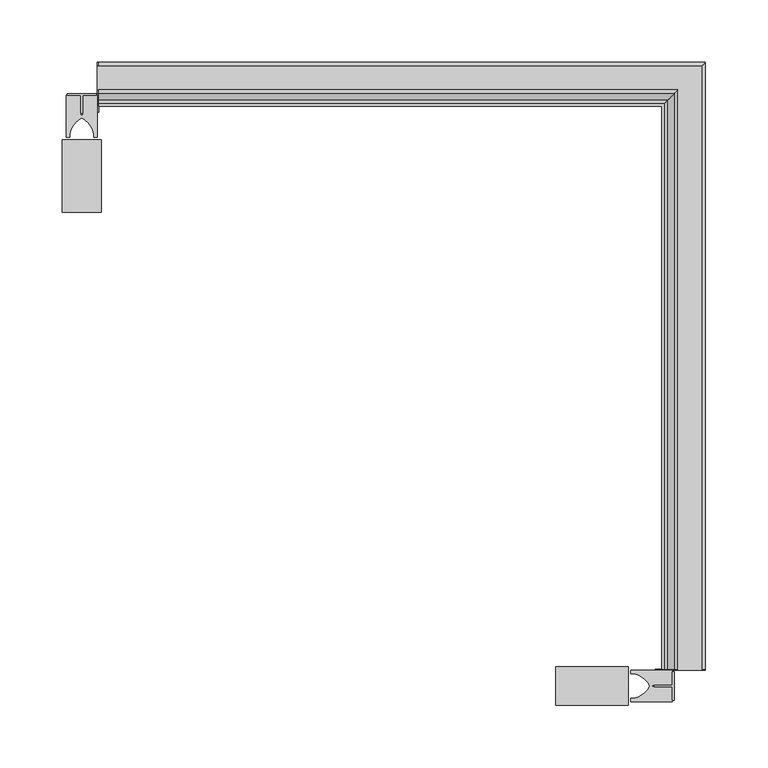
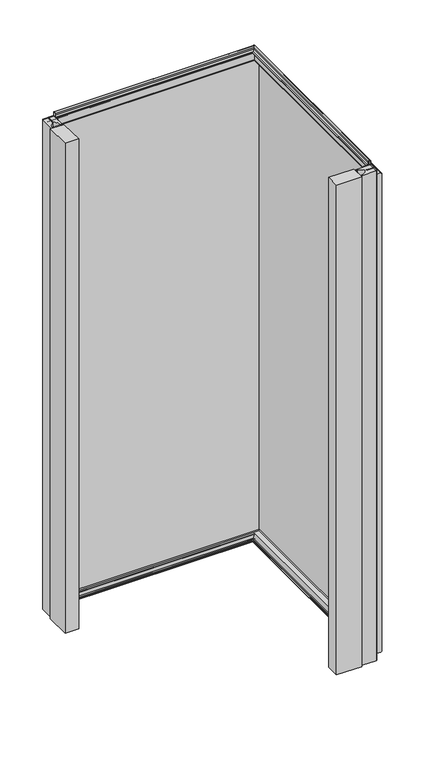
"""IFC4 building model written with IfcOpenShell, lengths in millimetres: plate geometry, Угловой модуль Fronttop : Угловой модуль Fronttop 120/1190."""

from ifc_helpers import new_model, si_unit, point, frame, frame_2d, origin, origin_with_axes, place, context, project, spatial, polyline, circle_curve, ellipse_curve, trimmed, segment, composite_curve, outline, extrude, source, transform, mapped, element, save
from ifc_brep_helpers import plane_surface, cylinder_surface, revolved_surface, advanced_brep


def plate_febac7e2(model_context):
    return source(origin(), model_context, "Body", "SolidModel", [
        extrude(outline(polyline([(225.0, -368.4948846), (225.0, -391.5051154), (223.5, -391.5051154), (223.5, -380.6502496), (209.0759655, -380.6502496), (209.0759655, -379.35), (223.5, -379.35), (223.5, -368.4948846), (225.0, -368.4948846)])), origin_with_axes(), (0.0, 0.0, 1.0), 1190.0),
        extrude(outline(composite_curve([segment(polyline([(223.5, -367.4998455), (223.5, -379.25), (207.5, -379.25), (207.5, -380.75), (223.5, -380.75), (223.5, -392.5001545), (190.0, -392.5001545), (190.0, -389.75), (192.5, -389.75)]), True, "CONTINUOUS"), segment(trimmed(circle_curve(frame_2d((189.3183984, -371.9661979)), 18.0661619), [point((192.5, -389.75))], [point((205.5, -380.0))], True, "CARTESIAN"), True, "CONTINUOUS"), segment(trimmed(circle_curve(frame_2d((189.3183984, -388.0338021)), 18.0661619), [point((205.5, -380.0))], [point((192.5, -370.25))], True, "CARTESIAN"), True, "CONTINUOUS"), segment(polyline([(192.5, -370.25), (190.0, -370.25), (190.0, -367.4998455), (223.5, -367.4998455)]), True, "CONTINUOUS")], self_intersect=False)), origin_with_axes(), (0.0, 0.0, 1.0), 1190.0),
        extrude(outline(polyline([(130.0, -395.5), (130.0, -364.5), (188.0, -364.5), (188.0, -395.5), (130.0, -395.5)])), origin_with_axes(), (0.0, 0.0, 1.0), 1190.0),
        extrude(outline(polyline([(-261.5051154, 95.0), (-238.4948846, 95.0), (-238.4948846, 93.5), (-249.3497504, 93.5), (-249.3497504, 79.0759655), (-250.65, 79.0759655), (-250.65, 93.5), (-261.5051154, 93.5), (-261.5051154, 95.0)])), origin_with_axes(), (0.0, 0.0, 1.0), 1190.0),
        extrude(outline(composite_curve([segment(polyline([(-262.5001545, 93.5), (-250.75, 93.5), (-250.75, 77.5), (-249.25, 77.5), (-249.25, 93.5), (-237.4998455, 93.5), (-237.4998455, 60.0), (-240.25, 60.0), (-240.25, 62.5)]), True, "CONTINUOUS"), segment(trimmed(circle_curve(frame_2d((-258.0338021, 59.3183984)), 18.0661619), [point((-240.25, 62.5))], [point((-250.0, 75.5))], True, "CARTESIAN"), True, "CONTINUOUS"), segment(trimmed(circle_curve(frame_2d((-241.9661979, 59.3183984)), 18.0661619), [point((-250.0, 75.5))], [point((-259.75, 62.5))], True, "CARTESIAN"), True, "CONTINUOUS"), segment(polyline([(-259.75, 62.5), (-259.75, 60.0), (-262.5001545, 60.0), (-262.5001545, 93.5)]), True, "CONTINUOUS")], self_intersect=False)), origin_with_axes(), (0.0, 0.0, 1.0), 1190.0),
        extrude(outline(polyline([(-234.5, 0.0), (-265.5, 0.0), (-265.5, 58.0), (-234.5, 58.0), (-234.5, 0.0)])), origin_with_axes(), (0.0, 0.0, 1.0), 1190.0),
        advanced_brep(
        [(-236.5, 94.0, 1198.0), (-236.5, 91.0, 1198.0), (-236.5, 91.0, 1194.0), (-236.5, 87.0, 1190.0), (-236.5, 85.0, 1190.0), (-236.5, 85.0, 1191.0), (-236.5, 87.0, 1191.0), (-236.5, 90.0, 1194.0), (-236.5, 90.0, 1198.0), (-236.5, 95.0, 1198.0), (-236.5, 95.0, 1190.0), (-236.5, 94.0, 1190.0), (-236.5, 85.0, 2.0), (215.0, 85.0, 2.0), (215.0, 85.0, 3.0), (-236.5, 85.0, 3.0), (215.0, -366.5, 3.0), (217.0, -366.5, 3.0), (217.0, 87.0, 3.0), (-236.5, 87.0, 3.0), (218.0, 88.0, 4.0), (-236.5, 88.0, 4.0), (218.0, 88.0, 8.0), (-236.5, 88.0, 8.0), (227.0, 97.0, 8.0), (-236.5, 97.0, 8.0), (227.0, 97.0, 0.0), (-236.5, 97.0, 0.0), (229.0, 99.0, -2.0), (-236.5, 99.0, -2.0), (229.0, -366.5, -2.0), (247.0, -366.5, -2.0), (247.0, 117.0, -2.0), (-236.5, 117.0, -2.0), (249.0, 119.0, 0.0), (-236.5, 119.0, 0.0), (249.0, 119.0, 1159.0), (-236.5, 119.0, 1159.0), (247.0, 117.0, 1161.0), (-236.5, 117.0, 1161.0), (247.0, -366.5, 1161.0), (228.0, -366.5, 1161.0), (228.0, 98.0, 1161.0), (-236.5, 98.0, 1161.0), (224.0, 94.0, 1165.0), (-236.5, 94.0, 1165.0), (224.0, 94.0, 1198.0), (221.0, 91.0, 1198.0), (221.0, 91.0, 1194.0), (217.0, 87.0, 1190.0), (217.0, -366.5, 1190.0), (215.0, -366.5, 1190.0), (215.0, 85.0, 1190.0), (215.0, 85.0, 1191.0), (215.0, -366.5, 1191.0), (217.0, -366.5, 1191.0), (217.0, 87.0, 1191.0), (220.0, 90.0, 1194.0), (220.0, 90.0, 1198.0), (225.0, 95.0, 1198.0), (225.0, 95.0, 1165.0), (-236.5, 95.0, 1165.0), (-237.5, 95.0, 1165.0), (-237.5, 95.0, 1190.0), (228.0, 98.0, 1162.0), (-236.5, 98.0, 1162.0), (228.0, -366.5, 1162.0), (228.0, -367.5, 1162.0), (247.0, -367.5, 1162.0), (247.0, -366.5, 1162.0), (247.0, 117.0, 1162.0), (-236.5, 117.0, 1162.0), (-237.5, 117.0, 1162.0), (-237.5, 98.0, 1162.0), (250.0, 120.0, 1159.0), (-236.5, 120.0, 1159.0), (250.0, 120.0, 0.0), (-236.5, 120.0, 0.0), (-237.5, 120.0, 0.0), (-237.5, 120.0, 1159.0), (247.0, 117.0, -3.0), (-236.5, 117.0, -3.0), (247.0, -366.5, -3.0), (247.0, -367.5, -3.0), (225.0, -367.5, -3.0), (225.0, -366.5, -3.0), (229.0, -366.5, -3.0), (229.0, 99.0, -3.0), (-236.5, 99.0, -3.0), (-236.5, 95.0, -3.0), (-237.5, 95.0, -3.0), (-237.5, 117.0, -3.0), (226.0, 96.0, 0.0), (-236.5, 96.0, 0.0), (226.0, 96.0, 8.0), (-236.5, 96.0, 8.0), (219.0, 89.0, 8.0), (-236.5, 89.0, 8.0), (219.0, 89.0, 4.0), (-236.5, 89.0, 4.0), (217.0, 87.0, 2.0), (-236.5, 87.0, 2.0), (217.0, -366.5, 2.0), (215.0, -366.5, 2.0), (221.0, -366.5, 1194.0), (221.0, -366.5, 1198.0), (224.0, -366.5, 1198.0), (224.0, -366.5, 1190.0), (225.0, -366.5, 1190.0), (225.0, -366.5, 1198.0), (220.0, -366.5, 1198.0), (220.0, -366.5, 1194.0), (218.0, -366.5, 4.0), (218.0, -366.5, 8.0), (227.0, -366.5, 8.0), (227.0, -366.5, 0.0), (249.0, -366.5, 0.0), (249.0, -366.5, 1159.0), (224.0, -366.5, 1165.0), (225.0, -367.5, 1190.0), (225.0, -367.5, 1165.0), (225.0, -366.5, 1165.0), (250.0, -366.5, 1159.0), (250.0, -367.5, 1159.0), (250.0, -367.5, 0.0), (250.0, -366.5, 0.0), (226.0, -366.5, 0.0), (226.0, -366.5, 8.0), (219.0, -366.5, 8.0), (219.0, -366.5, 4.0), (-236.5, 80.0, 1190.0), (-236.5, 80.0, 0.0), (-236.5, 95.0, 0.0), (-237.5, 95.0, 0.0), (-237.5, 80.0, 0.0), (-237.5, 80.0, 1190.0), (210.0, -366.5, 0.0), (210.0, -366.5, 1190.0), (225.0, -366.5, 0.0), (210.0, -367.5, 0.0), (225.0, -367.5, 0.0), (210.0, -367.5, 1190.0)],
        [
            (0, 1, circle_curve(frame((-236.5, 92.5, 1198.0), z_axis=(1.0, 0.0, 0.0), x_axis=(0.0, -1.0, 0.0)), 1.5)),
            (1, 2),
            (2, 3, circle_curve(frame((-236.5, 87.0, 1194.0), z_axis=(-1.0, 0.0, 0.0), x_axis=(0.0, -1.0, 0.0)), 4.0)),
            (3, 4),
            (4, 5),
            (5, 6),
            (6, 7, circle_curve(frame((-236.5, 87.0, 1194.0), z_axis=(1.0, 0.0, 0.0), x_axis=(0.0, -1.0, 0.0)), 3.0)),
            (7, 8),
            (8, 9, circle_curve(frame((-236.5, 92.5, 1198.0), z_axis=(-1.0, 0.0, 0.0), x_axis=(0.0, -1.0, 0.0)), 2.5)),
            (9, 10),
            (10, 11),
            (11, 0),
            (12, 13),
            (13, 14),
            (14, 15),
            (15, 12),
            (14, 16),
            (16, 17),
            (17, 18),
            (18, 19),
            (19, 15),
            (18, 20, ellipse_curve(frame((217.0, 87.0, 4.0), z_axis=(0.7071067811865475, -0.7071067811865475, 0.0), x_axis=(0.7071067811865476, 0.7071067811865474, 0.0)), 1.4142136, 1.0)),
            (20, 21),
            (21, 19, circle_curve(frame((-236.5, 87.0, 4.0), z_axis=(-1.0, 0.0, 0.0), x_axis=(0.0, -1.0, 0.0)), 1.0)),
            (20, 22),
            (22, 23),
            (23, 21),
            (22, 24, ellipse_curve(frame((222.5, 92.5, 8.0), z_axis=(-0.7071067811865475, 0.7071067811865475, 0.0), x_axis=(-0.7071067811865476, -0.7071067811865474, 0.0)), 6.363961, 4.5)),
            (24, 25),
            (25, 23, circle_curve(frame((-236.5, 92.5, 8.0), z_axis=(1.0, 0.0, 0.0), x_axis=(0.0, -1.0, 0.0)), 4.5)),
            (24, 26),
            (26, 27),
            (27, 25),
            (26, 28, ellipse_curve(frame((229.0, 99.0, 0.0), z_axis=(0.7071067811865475, -0.7071067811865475, 0.0), x_axis=(0.7071067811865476, 0.7071067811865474, 0.0)), 2.8284271, 2.0)),
            (28, 29),
            (29, 27, circle_curve(frame((-236.5, 99.0, 0.0), z_axis=(-1.0, 0.0, 0.0), x_axis=(0.0, -1.0, 0.0)), 2.0)),
            (28, 30),
            (30, 31),
            (31, 32),
            (32, 33),
            (33, 29),
            (32, 34, ellipse_curve(frame((247.0, 117.0, 0.0), z_axis=(0.7071067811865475, -0.7071067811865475, 0.0), x_axis=(0.7071067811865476, 0.7071067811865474, 0.0)), 2.8284271, 2.0)),
            (34, 35),
            (35, 33, circle_curve(frame((-236.5, 117.0, 0.0), z_axis=(-1.0, 0.0, 0.0), x_axis=(0.0, -1.0, 0.0)), 2.0)),
            (34, 36),
            (36, 37),
            (37, 35),
            (36, 38, ellipse_curve(frame((247.0, 117.0, 1159.0), z_axis=(0.7071067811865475, -0.7071067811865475, 0.0), x_axis=(0.7071067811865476, 0.7071067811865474, 0.0)), 2.8284271, 2.0)),
            (38, 39),
            (39, 37, circle_curve(frame((-236.5, 117.0, 1159.0), z_axis=(-1.0, 0.0, 0.0), x_axis=(0.0, -1.0, 0.0)), 2.0)),
            (38, 40),
            (40, 41),
            (41, 42),
            (42, 43),
            (43, 39),
            (42, 44, ellipse_curve(frame((228.0, 98.0, 1165.0), z_axis=(-0.7071067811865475, 0.7071067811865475, 0.0), x_axis=(-0.7071067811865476, -0.7071067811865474, 0.0)), 5.6568542, 4.0)),
            (44, 45),
            (45, 43, circle_curve(frame((-236.5, 98.0, 1165.0), z_axis=(1.0, 0.0, 0.0), x_axis=(0.0, -1.0, 0.0)), 4.0)),
            (44, 46),
            (46, 0),
            (11, 45),
            (46, 47, ellipse_curve(frame((222.5, 92.5, 1198.0), z_axis=(0.7071067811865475, -0.7071067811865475, 0.0), x_axis=(0.7071067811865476, 0.7071067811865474, 0.0)), 2.1213203, 1.5)),
            (47, 1),
            (47, 48),
            (48, 2),
            (48, 49, ellipse_curve(frame((217.0, 87.0, 1194.0), z_axis=(-0.7071067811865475, 0.7071067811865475, 0.0), x_axis=(-0.7071067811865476, -0.7071067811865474, 0.0)), 5.6568542, 4.0)),
            (49, 3),
            (49, 50),
            (50, 51),
            (51, 52),
            (52, 4),
            (4, 3),
            (52, 53),
            (53, 5),
            (53, 54),
            (54, 55),
            (55, 56),
            (56, 6),
            (56, 57, ellipse_curve(frame((217.0, 87.0, 1194.0), z_axis=(0.7071067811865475, -0.7071067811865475, 0.0), x_axis=(0.7071067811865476, 0.7071067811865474, 0.0)), 4.2426407, 3.0)),
            (57, 7),
            (57, 58),
            (58, 8),
            (58, 59, ellipse_curve(frame((222.5, 92.5, 1198.0), z_axis=(-0.7071067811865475, 0.7071067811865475, 0.0), x_axis=(-0.7071067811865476, -0.7071067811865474, 0.0)), 3.5355339, 2.5)),
            (59, 9),
            (59, 60),
            (60, 61),
            (61, 62),
            (62, 63),
            (63, 10),
            (60, 64, ellipse_curve(frame((228.0, 98.0, 1165.0), z_axis=(0.7071067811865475, -0.7071067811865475, 0.0), x_axis=(0.7071067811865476, 0.7071067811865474, 0.0)), 4.2426407, 3.0)),
            (64, 65),
            (65, 61, circle_curve(frame((-236.5, 98.0, 1165.0), z_axis=(-1.0, 0.0, 0.0), x_axis=(0.0, -1.0, 0.0)), 3.0)),
            (64, 66),
            (66, 67),
            (67, 68),
            (68, 69),
            (69, 70),
            (70, 71),
            (71, 72),
            (72, 73),
            (73, 65),
            (70, 74, ellipse_curve(frame((247.0, 117.0, 1159.0), z_axis=(-0.7071067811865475, 0.7071067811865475, 0.0), x_axis=(-0.7071067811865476, -0.7071067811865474, 0.0)), 4.2426407, 3.0)),
            (74, 75),
            (75, 71, circle_curve(frame((-236.5, 117.0, 1159.0), z_axis=(1.0, 0.0, 0.0), x_axis=(0.0, -1.0, 0.0)), 3.0)),
            (74, 76),
            (76, 77),
            (77, 78),
            (78, 79),
            (79, 75),
            (76, 80, ellipse_curve(frame((247.0, 117.0, 0.0), z_axis=(-0.7071067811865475, 0.7071067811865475, 0.0), x_axis=(-0.7071067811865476, -0.7071067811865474, 0.0)), 4.2426407, 3.0)),
            (80, 81),
            (81, 77, circle_curve(frame((-236.5, 117.0, 0.0), z_axis=(1.0, 0.0, 0.0), x_axis=(0.0, -1.0, 0.0)), 3.0)),
            (80, 82),
            (82, 83),
            (83, 84),
            (84, 85),
            (85, 86),
            (86, 87),
            (87, 88),
            (88, 89),
            (89, 90),
            (90, 91),
            (91, 81),
            (87, 92, ellipse_curve(frame((229.0, 99.0, 0.0), z_axis=(-0.7071067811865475, 0.7071067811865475, 0.0), x_axis=(-0.7071067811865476, -0.7071067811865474, 0.0)), 4.2426407, 3.0)),
            (92, 93),
            (93, 88, circle_curve(frame((-236.5, 99.0, 0.0), z_axis=(1.0, 0.0, 0.0), x_axis=(0.0, -1.0, 0.0)), 3.0)),
            (92, 94),
            (94, 95),
            (95, 93),
            (94, 96, ellipse_curve(frame((222.5, 92.5, 8.0), z_axis=(0.7071067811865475, -0.7071067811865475, 0.0), x_axis=(0.7071067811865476, 0.7071067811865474, 0.0)), 4.9497475, 3.5)),
            (96, 97),
            (97, 95, circle_curve(frame((-236.5, 92.5, 8.0), z_axis=(-1.0, 0.0, 0.0), x_axis=(0.0, -1.0, 0.0)), 3.5)),
            (96, 98),
            (98, 99),
            (99, 97),
            (98, 100, ellipse_curve(frame((217.0, 87.0, 4.0), z_axis=(-0.7071067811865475, 0.7071067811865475, 0.0), x_axis=(-0.7071067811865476, -0.7071067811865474, 0.0)), 2.8284271, 2.0)),
            (100, 101),
            (101, 99, circle_curve(frame((-236.5, 87.0, 4.0), z_axis=(1.0, 0.0, 0.0), x_axis=(0.0, -1.0, 0.0)), 2.0)),
            (12, 101),
            (100, 102),
            (102, 103),
            (103, 13),
            (54, 51),
            (51, 50),
            (50, 104, circle_curve(frame((217.0, -366.5, 1194.0), z_axis=(0.0, -1.0, 0.0), x_axis=(-1.0, 0.0, 0.0)), 4.0)),
            (104, 105),
            (105, 106, circle_curve(frame((222.5, -366.5, 1198.0), z_axis=(0.0, 1.0, 0.0), x_axis=(-1.0, 0.0, 0.0)), 1.5)),
            (106, 107),
            (107, 108),
            (108, 109),
            (109, 110, circle_curve(frame((222.5, -366.5, 1198.0), z_axis=(0.0, -1.0, 0.0), x_axis=(-1.0, 0.0, 0.0)), 2.5)),
            (110, 111),
            (111, 55, circle_curve(frame((217.0, -366.5, 1194.0), z_axis=(0.0, 1.0, 0.0), x_axis=(-1.0, 0.0, 0.0)), 3.0)),
            (103, 16),
            (17, 112, circle_curve(frame((217.0, -366.5, 4.0), z_axis=(0.0, -1.0, 0.0), x_axis=(-1.0, 0.0, 0.0)), 1.0)),
            (112, 20),
            (112, 113),
            (113, 22),
            (113, 114, circle_curve(frame((222.5, -366.5, 8.0), z_axis=(0.0, 1.0, 0.0), x_axis=(-1.0, 0.0, 0.0)), 4.5)),
            (114, 24),
            (114, 115),
            (115, 26),
            (115, 30, circle_curve(frame((229.0, -366.5, 0.0), z_axis=(0.0, -1.0, 0.0), x_axis=(-1.0, 0.0, 0.0)), 2.0)),
            (31, 116, circle_curve(frame((247.0, -366.5, 0.0), z_axis=(0.0, -1.0, 0.0), x_axis=(-1.0, 0.0, 0.0)), 2.0)),
            (116, 34),
            (116, 117),
            (117, 36),
            (117, 40, circle_curve(frame((247.0, -366.5, 1159.0), z_axis=(0.0, -1.0, 0.0), x_axis=(-1.0, 0.0, 0.0)), 2.0)),
            (41, 118, circle_curve(frame((228.0, -366.5, 1165.0), z_axis=(0.0, 1.0, 0.0), x_axis=(-1.0, 0.0, 0.0)), 4.0)),
            (118, 44),
            (118, 107),
            (106, 46),
            (105, 47),
            (104, 48),
            (111, 57),
            (110, 58),
            (109, 59),
            (108, 119),
            (119, 120),
            (120, 121),
            (121, 60),
            (121, 66, circle_curve(frame((228.0, -366.5, 1165.0), z_axis=(0.0, -1.0, 0.0), x_axis=(-1.0, 0.0, 0.0)), 3.0)),
            (69, 122, circle_curve(frame((247.0, -366.5, 1159.0), z_axis=(0.0, 1.0, 0.0), x_axis=(-1.0, 0.0, 0.0)), 3.0)),
            (122, 74),
            (122, 123),
            (123, 124),
            (124, 125),
            (125, 76),
            (125, 82, circle_curve(frame((247.0, -366.5, 0.0), z_axis=(0.0, 1.0, 0.0), x_axis=(-1.0, 0.0, 0.0)), 3.0)),
            (86, 126, circle_curve(frame((229.0, -366.5, 0.0), z_axis=(0.0, 1.0, 0.0), x_axis=(-1.0, 0.0, 0.0)), 3.0)),
            (126, 92),
            (126, 127),
            (127, 94),
            (127, 128, circle_curve(frame((222.5, -366.5, 8.0), z_axis=(0.0, -1.0, 0.0), x_axis=(-1.0, 0.0, 0.0)), 3.5)),
            (128, 96),
            (128, 129),
            (129, 98),
            (129, 102, circle_curve(frame((217.0, -366.5, 4.0), z_axis=(0.0, 1.0, 0.0), x_axis=(-1.0, 0.0, 0.0)), 2.0)),
            (130, 131),
            (131, 132),
            (132, 89),
            (11, 3),
            (4, 130),
            (62, 73, circle_curve(frame((-237.5, 98.0, 1165.0), z_axis=(1.0, 0.0, 0.0), x_axis=(0.0, 1.0, 0.0)), 3.0)),
            (72, 79, circle_curve(frame((-237.5, 117.0, 1159.0), z_axis=(-1.0, 0.0, 0.0), x_axis=(0.0, 1.0, 0.0)), 3.0)),
            (78, 91, circle_curve(frame((-237.5, 117.0, 0.0), z_axis=(-1.0, 0.0, 0.0), x_axis=(0.0, 1.0, 0.0)), 3.0)),
            (90, 133),
            (133, 134),
            (134, 135),
            (135, 63),
            (135, 130),
            (134, 131),
            (133, 132),
            (136, 137),
            (137, 51),
            (50, 107),
            (85, 138),
            (138, 136),
            (139, 140),
            (140, 84),
            (83, 124, circle_curve(frame((247.0, -367.5, 0.0), z_axis=(0.0, -1.0, 0.0), x_axis=(-1.0, 0.0, 0.0)), 3.0)),
            (123, 68, circle_curve(frame((247.0, -367.5, 1159.0), z_axis=(0.0, -1.0, 0.0), x_axis=(-1.0, 0.0, 0.0)), 3.0)),
            (67, 120, circle_curve(frame((228.0, -367.5, 1165.0), z_axis=(0.0, 1.0, 0.0), x_axis=(-1.0, 0.0, 0.0)), 3.0)),
            (119, 141),
            (141, 139),
            (138, 140),
            (139, 136),
            (137, 141),
        ],
        [
            plane_surface(frame((-236.5, 0.0, 0.0), z_axis=(-1.0, 0.0, 0.0), x_axis=(0.0, 0.0, 1.0))),
            plane_surface(frame((-236.5, 85.0, 2.0), z_axis=(0.0, -1.0, 0.0), x_axis=(1.0, 0.0, 0.0))),
            plane_surface(frame((-236.5, 85.0, 3.0), z_axis=(0.0, 0.0, 1.0), x_axis=(1.0, 0.0, 0.0))),
            revolved_surface(polyline([(218.00000002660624, 86.0, 4.0), (-236.5, 86.0, 4.0)]), (-236.5, 87.0, 4.0), (1.0, 0.0, 0.0)),
            plane_surface(frame((-236.5, 88.0, 4.0), z_axis=(0.0, -1.0, 0.0), x_axis=(1.0, 0.0, 0.0))),
            cylinder_surface(frame((-236.5, 92.5, 8.0), z_axis=(-1.0, 0.0, 0.0), x_axis=(0.0, -1.0, 0.0)), 4.5),
            plane_surface(frame((-236.5, 97.0, 8.0), z_axis=(0.0, 1.0, 0.0), x_axis=(1.0, 0.0, 0.0))),
            revolved_surface(polyline([(230.99999998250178, 97.0, 0.0), (-236.5, 97.0, 0.0)]), (-236.5, 99.0, 0.0), (1.0, 0.0, 0.0)),
            plane_surface(frame((-236.5, 99.0, -2.0), z_axis=(0.0, 0.0, 1.0), x_axis=(1.0, 0.0, 0.0))),
            revolved_surface(polyline([(249.0, 115.0, 0.0), (-236.5, 115.0, 0.0)]), (-236.5, 117.0, 0.0), (1.0, 0.0, 0.0)),
            plane_surface(frame((-236.5, 119.0, 0.0), z_axis=(0.0, -1.0, 0.0), x_axis=(1.0, 0.0, 0.0))),
            revolved_surface(polyline([(249.0, 115.0, 1159.0), (-236.5, 115.0, 1159.0)]), (-236.5, 117.0, 1159.0), (1.0, 0.0, 0.0)),
            plane_surface(frame((-236.5, 117.0, 1161.0), z_axis=(0.0, 0.0, -1.0), x_axis=(1.0, 0.0, 0.0))),
            cylinder_surface(frame((-236.5, 98.0, 1165.0), z_axis=(-1.0, 0.0, 0.0), x_axis=(0.0, -1.0, 0.0)), 4.0),
            plane_surface(frame((-236.5, 94.0, 1165.0), z_axis=(0.0, -1.0, 0.0), x_axis=(1.0, 0.0, 0.0))),
            revolved_surface(polyline([(224.0, 91.0, 1198.0), (-236.5, 91.0, 1198.0)]), (-236.5, 92.5, 1198.0), (1.0, 0.0, 0.0)),
            plane_surface(frame((-236.5, 91.0, 1198.0), z_axis=(0.0, 1.0, 0.0), x_axis=(1.0, 0.0, 0.0))),
            cylinder_surface(frame((-236.5, 87.0, 1194.0), z_axis=(-1.0, 0.0, 0.0), x_axis=(0.0, -1.0, 0.0)), 4.0),
            plane_surface(frame((-236.5, 87.0, 1190.0), z_axis=(0.0, 0.0, -1.0), x_axis=(1.0, 0.0, 0.0))),
            plane_surface(frame((-236.5, 85.0, 1190.0), z_axis=(0.0, -1.0, 0.0), x_axis=(1.0, 0.0, 0.0))),
            plane_surface(frame((-236.5, 85.0, 1191.0), z_axis=(0.0, 0.0, 1.0), x_axis=(1.0, 0.0, 0.0))),
            revolved_surface(polyline([(220.00000000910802, 84.0, 1194.0), (-236.5, 84.0, 1194.0)]), (-236.5, 87.0, 1194.0), (1.0, 0.0, 0.0)),
            plane_surface(frame((-236.5, 90.0, 1194.0), z_axis=(0.0, -1.0, 0.0), x_axis=(1.0, 0.0, 0.0))),
            cylinder_surface(frame((-236.5, 92.5, 1198.0), z_axis=(-1.0, 0.0, 0.0), x_axis=(0.0, -1.0, 0.0)), 2.5),
            plane_surface(frame((-236.5, 95.0, 1198.0), z_axis=(0.0, 1.0, 0.0), x_axis=(1.0, 0.0, 0.0))),
            revolved_surface(polyline([(231.00000000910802, 95.0, 1165.0), (-236.5, 95.0, 1165.0)]), (-236.5, 98.0, 1165.0), (1.0, 0.0, 0.0)),
            plane_surface(frame((-236.5, 98.0, 1162.0), z_axis=(0.0, 0.0, 1.0), x_axis=(1.0, 0.0, 0.0))),
            cylinder_surface(frame((-236.5, 117.0, 1159.0), z_axis=(-1.0, 0.0, 0.0), x_axis=(0.0, -1.0, 0.0)), 3.0),
            plane_surface(frame((-236.5, 120.0, 1159.0), z_axis=(0.0, 1.0, 0.0), x_axis=(1.0, 0.0, 0.0))),
            cylinder_surface(frame((-236.5, 117.0, 0.0), z_axis=(-1.0, 0.0, 0.0), x_axis=(0.0, -1.0, 0.0)), 3.0),
            plane_surface(frame((-236.5, 117.0, -3.0), z_axis=(0.0, 0.0, -1.0), x_axis=(1.0, 0.0, 0.0))),
            cylinder_surface(frame((-236.5, 99.0, 0.0), z_axis=(-1.0, 0.0, 0.0), x_axis=(0.0, -1.0, 0.0)), 3.0),
            plane_surface(frame((-236.5, 96.0, 0.0), z_axis=(0.0, -1.0, 0.0), x_axis=(1.0, 0.0, 0.0))),
            revolved_surface(polyline([(226.00000002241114, 89.0, 8.0), (-236.5, 89.0, 8.0)]), (-236.5, 92.5, 8.0), (1.0, 0.0, 0.0)),
            plane_surface(frame((-236.5, 89.0, 8.0), z_axis=(0.0, 1.0, 0.0), x_axis=(1.0, 0.0, 0.0))),
            cylinder_surface(frame((-236.5, 87.0, 4.0), z_axis=(-1.0, 0.0, 0.0), x_axis=(0.0, -1.0, 0.0)), 2.0),
            plane_surface(frame((-236.5, 87.0, 2.0), z_axis=(0.0, 0.0, -1.0), x_axis=(1.0, 0.0, 0.0))),
            plane_surface(frame((130.0, -366.5, 0.0), z_axis=(0.0, -1.0, 0.0), x_axis=(0.0, 0.0, 1.0))),
            plane_surface(frame((215.0, 85.0, 2.0), z_axis=(-1.0, 0.0, 0.0), x_axis=(0.0, -1.0, 0.0))),
            revolved_surface(polyline([(216.0, -366.5, 4.0), (216.0, 88.00000002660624, 4.0)]), (217.0, 0.0, 4.0), (0.0, -1.0, 0.0)),
            plane_surface(frame((218.0, 88.0, 4.0), z_axis=(-1.0, 0.0, 0.0), x_axis=(0.0, -1.0, 0.0))),
            cylinder_surface(frame((222.5, 0.0, 8.0), z_axis=(0.0, 1.0, 0.0), x_axis=(-1.0, 0.0, 0.0)), 4.5),
            plane_surface(frame((227.0, 97.0, 8.0), z_axis=(1.0, 0.0, 0.0), x_axis=(0.0, -1.0, 0.0))),
            revolved_surface(polyline([(227.0, -366.5, 0.0), (227.0, 100.9999999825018, 0.0)]), (229.0, 0.0, 0.0), (0.0, -1.0, 0.0)),
            revolved_surface(polyline([(245.0, -366.5, 0.0), (245.0, 119.0, 0.0)]), (247.0, 0.0, 0.0), (0.0, -1.0, 0.0)),
            plane_surface(frame((249.0, 119.0, 0.0), z_axis=(-1.0, 0.0, 0.0), x_axis=(0.0, -1.0, 0.0))),
            revolved_surface(polyline([(245.0, -366.5, 1159.0), (245.0, 119.0, 1159.0)]), (247.0, 0.0, 1159.0), (0.0, -1.0, 0.0)),
            cylinder_surface(frame((228.0, 0.0, 1165.0), z_axis=(0.0, 1.0, 0.0), x_axis=(-1.0, 0.0, 0.0)), 4.0),
            plane_surface(frame((224.0, 94.0, 1165.0), z_axis=(-1.0, 0.0, 0.0), x_axis=(0.0, -1.0, 0.0))),
            revolved_surface(polyline([(221.0, -366.5, 1198.0), (221.0, 94.0, 1198.0)]), (222.5, 0.0, 1198.0), (0.0, -1.0, 0.0)),
            plane_surface(frame((221.0, 91.0, 1198.0), z_axis=(1.0, 0.0, 0.0), x_axis=(0.0, -1.0, 0.0))),
            cylinder_surface(frame((217.0, 0.0, 1194.0), z_axis=(0.0, 1.0, 0.0), x_axis=(-1.0, 0.0, 0.0)), 4.0),
            plane_surface(frame((215.0, 85.0, 1190.0), z_axis=(-1.0, 0.0, 0.0), x_axis=(0.0, -1.0, 0.0))),
            revolved_surface(polyline([(214.0, -366.5, 1194.0), (214.0, 90.00000000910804, 1194.0)]), (217.0, 0.0, 1194.0), (0.0, -1.0, 0.0)),
            plane_surface(frame((220.0, 90.0, 1194.0), z_axis=(-1.0, 0.0, 0.0), x_axis=(0.0, -1.0, 0.0))),
            cylinder_surface(frame((222.5, 0.0, 1198.0), z_axis=(0.0, 1.0, 0.0), x_axis=(-1.0, 0.0, 0.0)), 2.5),
            plane_surface(frame((225.0, 95.0, 1198.0), z_axis=(1.0, 0.0, 0.0), x_axis=(0.0, -1.0, 0.0))),
            revolved_surface(polyline([(225.0, -366.5, 1165.0), (225.0, 101.00000000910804, 1165.0)]), (228.0, 0.0, 1165.0), (0.0, -1.0, 0.0)),
            cylinder_surface(frame((247.0, 0.0, 1159.0), z_axis=(0.0, 1.0, 0.0), x_axis=(-1.0, 0.0, 0.0)), 3.0),
            plane_surface(frame((250.0, 120.0, 1159.0), z_axis=(1.0, 0.0, 0.0), x_axis=(0.0, -1.0, 0.0))),
            cylinder_surface(frame((247.0, 0.0, 0.0), z_axis=(0.0, 1.0, 0.0), x_axis=(-1.0, 0.0, 0.0)), 3.0),
            cylinder_surface(frame((229.0, 0.0, 0.0), z_axis=(0.0, 1.0, 0.0), x_axis=(-1.0, 0.0, 0.0)), 3.0),
            plane_surface(frame((226.0, 96.0, 0.0), z_axis=(-1.0, 0.0, 0.0), x_axis=(0.0, -1.0, 0.0))),
            revolved_surface(polyline([(219.0, -366.5, 8.0), (219.0, 96.00000002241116, 8.0)]), (222.5, 0.0, 8.0), (0.0, -1.0, 0.0)),
            plane_surface(frame((219.0, 89.0, 8.0), z_axis=(1.0, 0.0, 0.0), x_axis=(0.0, -1.0, 0.0))),
            cylinder_surface(frame((217.0, 0.0, 4.0), z_axis=(0.0, 1.0, 0.0), x_axis=(-1.0, 0.0, 0.0)), 2.0),
            plane_surface(frame((-236.5, 95.0, 1190.0), z_axis=(1.0, 0.0, 0.0), x_axis=(0.0, -1.0, 0.0))),
            plane_surface(frame((-237.5, 95.0, 1190.0), z_axis=(-1.0, 0.0, 0.0), x_axis=(0.0, 1.0, 0.0))),
            plane_surface(frame((-236.5, 95.0, 1190.0), z_axis=(0.0, 0.0, 1.0), x_axis=(-1.0, 0.0, 0.0))),
            plane_surface(frame((-236.5, 80.0, 1190.0), z_axis=(0.0, -1.0, 0.0), x_axis=(-1.0, 0.0, 0.0))),
            plane_surface(frame((-236.5, 80.0, 0.0), z_axis=(0.0, 0.0, -1.0), x_axis=(-1.0, 0.0, 0.0))),
            plane_surface(frame((-236.5, 95.0, 0.0), z_axis=(0.0, -1.0, 0.0), x_axis=(-1.0, 0.0, 0.0))),
            cylinder_surface(frame((-237.5, 117.0, 0.0), z_axis=(1.0, 0.0, 0.0), x_axis=(0.0, 1.0, 0.0)), 3.0),
            cylinder_surface(frame((-237.5, 117.0, 1159.0), z_axis=(1.0, 0.0, 0.0), x_axis=(0.0, 1.0, 0.0)), 3.0),
            revolved_surface(polyline([(-237.5, 101.0, 1165.0), (-236.5, 101.0, 1165.0)]), (-237.5, 98.0, 1165.0), (-1.0, 0.0, 0.0)),
            plane_surface(frame((210.0, -366.5, 1190.0), z_axis=(0.0, 1.0, 0.0), x_axis=(0.0, 0.0, 1.0))),
            plane_surface(frame((210.0, -367.5, 1190.0), z_axis=(0.0, -1.0, 0.0), x_axis=(0.0, 0.0, -1.0))),
            plane_surface(frame((225.0, -366.5, 0.0), z_axis=(0.0, 0.0, -1.0), x_axis=(0.0, -1.0, 0.0))),
            plane_surface(frame((225.0, -366.5, -3.0), z_axis=(-1.0, 0.0, 0.0), x_axis=(0.0, -1.0, 0.0))),
            cylinder_surface(frame((247.0, -367.5, 0.0), z_axis=(0.0, 1.0, 0.0), x_axis=(-1.0, 0.0, 0.0)), 3.0),
            cylinder_surface(frame((247.0, -367.5, 1159.0), z_axis=(0.0, 1.0, 0.0), x_axis=(-1.0, 0.0, 0.0)), 3.0),
            revolved_surface(polyline([(225.0, -367.5, 1165.0), (225.0, -366.5, 1165.0)]), (228.0, -367.5, 1165.0), (0.0, -1.0, 0.0)),
            plane_surface(frame((210.0, -366.5, 1190.0), z_axis=(0.0, 0.0, 1.0), x_axis=(0.0, -1.0, 0.0))),
            plane_surface(frame((210.0, -366.5, 0.0), z_axis=(-1.0, 0.0, 0.0), x_axis=(0.0, -1.0, 0.0))),
        ],
        [
            (0, [[1, 2, 3, 4, 5, 6, 7, 8, 9, 10, 11, 12]]),
            (1, [[13, 14, 15, 16]]),
            (2, [[-15, 17, 18, 19, 20, 21]]),
            (3, [[-20, 22, 23, 24]]),
            (4, [[-23, 25, 26, 27]]),
            (5, [[-26, 28, 29, 30]]),
            (6, [[-29, 31, 32, 33]]),
            (7, [[-32, 34, 35, 36]]),
            (8, [[-35, 37, 38, 39, 40, 41]]),
            (9, [[-40, 42, 43, 44]]),
            (10, [[-43, 45, 46, 47]]),
            (11, [[-46, 48, 49, 50]]),
            (12, [[-49, 51, 52, 53, 54, 55]]),
            (13, [[-54, 56, 57, 58]]),
            (14, [[-57, 59, 60, -12, 61]]),
            (15, [[-1, -60, 62, 63]]),
            (16, [[-2, -63, 64, 65]]),
            (17, [[-3, -65, 66, 67]]),
            (18, [[-67, 68, 69, 70, 71, 72]]),
            (19, [[-5, -71, 73, 74]]),
            (20, [[-6, -74, 75, 76, 77, 78]]),
            (21, [[-7, -78, 79, 80]]),
            (22, [[-8, -80, 81, 82]]),
            (23, [[-9, -82, 83, 84]]),
            (24, [[-84, 85, 86, 87, 88, 89, -10]]),
            (25, [[-86, 90, 91, 92]]),
            (26, [[-91, 93, 94, 95, 96, 97, 98, 99, 100, 101]]),
            (27, [[-98, 102, 103, 104]]),
            (28, [[-103, 105, 106, 107, 108, 109]]),
            (29, [[-106, 110, 111, 112]]),
            (30, [[-111, 113, 114, 115, 116, 117, 118, 119, 120, 121, 122, 123]]),
            (31, [[-119, 124, 125, 126]]),
            (32, [[-125, 127, 128, 129]]),
            (33, [[-128, 130, 131, 132]]),
            (34, [[-131, 133, 134, 135]]),
            (35, [[-134, 136, 137, 138]]),
            (36, [[-13, 139, -137, 140, 141, 142]]),
            (37, [[-76, 143, 144, 145, 146, 147, 148, 149, 150, 151, 152, 153]]),
            (38, [[-14, -142, 154, -17]]),
            (39, [[-19, 155, 156, -22]]),
            (40, [[-25, -156, 157, 158]]),
            (41, [[-28, -158, 159, 160]]),
            (42, [[-31, -160, 161, 162]]),
            (43, [[-34, -162, 163, -37]]),
            (44, [[-39, 164, 165, -42]]),
            (45, [[-45, -165, 166, 167]]),
            (46, [[-48, -167, 168, -51]]),
            (47, [[-53, 169, 170, -56]]),
            (48, [[-59, -170, 171, -148, 172]]),
            (49, [[-62, -172, -147, 173]]),
            (50, [[-64, -173, -146, 174]]),
            (51, [[-66, -174, -145, -68]]),
            (52, [[-70, -143, -75, -73]]),
            (53, [[-77, -153, 175, -79]]),
            (54, [[-81, -175, -152, 176]]),
            (55, [[-83, -176, -151, 177]]),
            (56, [[-85, -177, -150, 178, 179, 180, 181]]),
            (57, [[-90, -181, 182, -93]]),
            (58, [[-97, 183, 184, -102]]),
            (59, [[-105, -184, 185, 186, 187, 188]]),
            (60, [[-110, -188, 189, -113]]),
            (61, [[-118, 190, 191, -124]]),
            (62, [[-127, -191, 192, 193]]),
            (63, [[-130, -193, 194, 195]]),
            (64, [[-133, -195, 196, 197]]),
            (65, [[-136, -197, 198, -140]]),
            (66, [[199, 200, 201, -120, -126, -129, -132, -135, -138, -139, -16, -21, -24, -27, -30, -33, -36, -41, -44, -47, -50, -55, -58, -61, 202, -72, 203]]),
            (67, [[-88, 204, -100, 205, -108, 206, -122, 207, 208, 209, 210]]),
            (68, [[-210, 211, -203, -4, -202, -11, -89]]),
            (69, [[-199, -211, -209, 212]]),
            (70, [[-200, -212, -208, 213]]),
            (71, [[-201, -213, -207, -121]]),
            (72, [[-206, -107, -112, -123]]),
            (73, [[-205, -99, -104, -109]]),
            (74, [[-204, -87, -92, -101]]),
            (75, [[214, 215, -69, 216, -171, -169, -52, -168, -166, -164, -38, -163, -161, -159, -157, -155, -18, -154, -141, -198, -196, -194, -192, -190, -117, 217, 218]]),
            (76, [[219, 220, -115, 221, -186, 222, -95, 223, -179, 224, 225]]),
            (77, [[-218, 226, -219, 227]]),
            (78, [[-217, -116, -220, -226]]),
            (79, [[-221, -114, -189, -187]]),
            (80, [[-222, -185, -183, -96]]),
            (81, [[-223, -94, -182, -180]]),
            (82, [[-224, -178, -149, -216, -144, -215, 228]]),
            (83, [[-214, -227, -225, -228]]),
        ],
    ),
    ])


if __name__ == "__main__":
    model = new_model("IFC4")
    model_context = context("Model", 3, world=origin())
    ifc_project = project(units=[si_unit("LENGTHUNIT", "METRE", prefix="MILLI")], contexts=[model_context])
    site = spatial("IfcSite", under=ifc_project)
    building = spatial("IfcBuilding", under=site)
    placement = place(None, origin())
    plate_shape = plate_febac7e2(model_context)
    element("IfcPlate", 1, ObjectType="Угловой модуль Fronttop : Угловой модуль Fronttop 120/1190", at=placement, inside=building, context=model_context, shape_type="MappedRepresentation", body=[
        mapped(plate_shape, transform((0.0, 0.0, 0.0), x_axis=(1.0, 0.0, 0.0), y_axis=(0.0, 1.0, 0.0), z_axis=(0.0, 0.0, 1.0))),
    ])
    save(model, "model.ifc")
